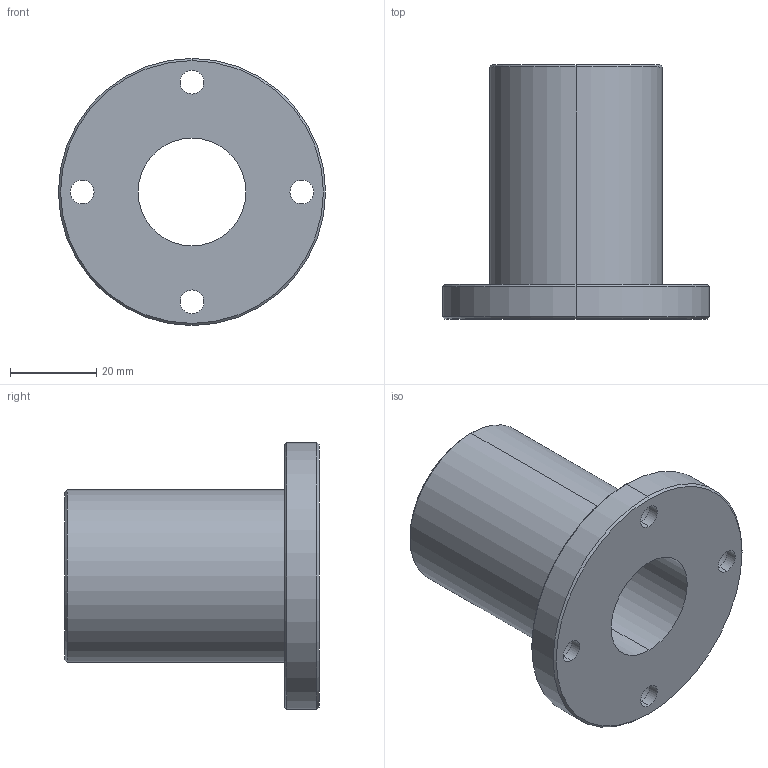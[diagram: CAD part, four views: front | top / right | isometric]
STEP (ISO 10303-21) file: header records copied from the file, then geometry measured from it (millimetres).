
FILE_DESCRIPTION (( 'STEP AP214' ), '1' );
FILE_NAME ('2.7037 LIneaarilaakeri LMF25UU.STEP', '2024-06-18T08:04:35', ( '' ), ( '' ), 'SwSTEP 2.0', 'SolidWorks 2024', '' );
FILE_SCHEMA (( 'AUTOMOTIVE_DESIGN' ));
Length unit declared in the file: millimetre
Products named in the file (1): 2.7037 LIneaarilaakeri LMF25UU
Bounding box: 62 x 59 x 62 mm (x, y, z)
Volume: 57431.9 mm3; surface area: 18238.6 mm2
Topology: 1 solids, 5 shells, 54 faces, 111 edges, 72 vertices
Faces by surface type: cylinder 33, plane 15, cone 6
Entity records: 1494 total; most frequent: DIRECTION 293, CARTESIAN_POINT 238, ORIENTED_EDGE 222, AXIS2_PLACEMENT_3D 127, EDGE_CURVE 111, CIRCLE 72, VERTEX_POINT 72, EDGE_LOOP 69
